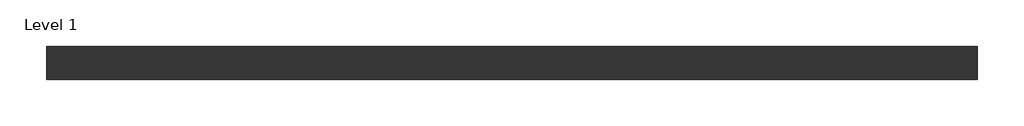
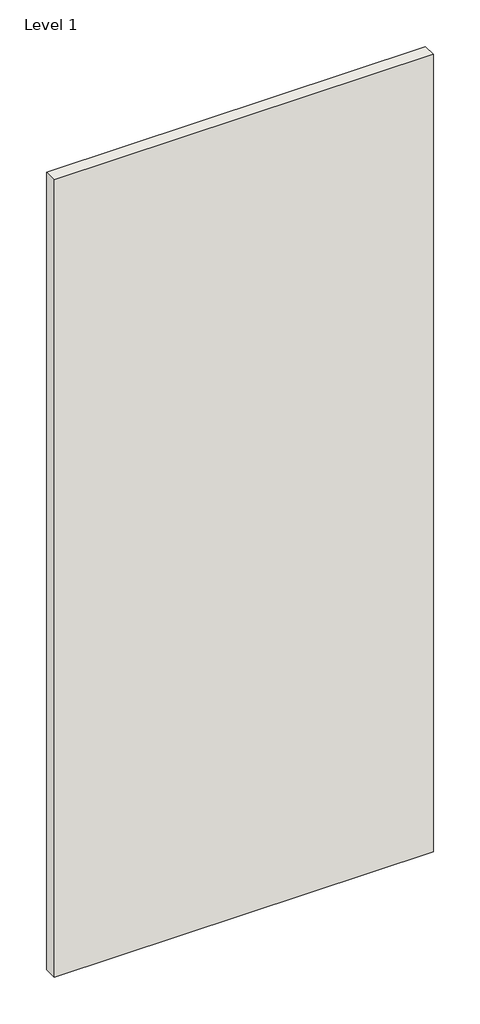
# One storey: 1 wall.
"""IFC4 building model written with IfcOpenShell, lengths in millimetres."""

import ifcopenshell
import ifcopenshell.guid

model = None  # the IFC model being written
_history = None  # IfcOwnerHistory: only IFC2X3 demands one
_inside = {}  # id of a spatial element -> (the spatial element, [elements in it])
_under = {}  # id of a project, library or spatial element -> (it, [spatial elements below it])
_declared = {}  # id of a project -> (the project, [libraries it declares])
_typed = {}  # id of a type object -> (the type object, [elements of that type])
_made_of = {}  # id of a material, layer set ... -> (it, [elements and type objects made of it])


def new_model(schema):
    """Start an empty IFC model of exactly this schema.

    Asked for "IFC4X3", IfcOpenShell would pick the latest addendum, in which some entities
    have other attributes; the version numbers below select the first issue.
    IFC2X3 requires an IfcOwnerHistory on every rooted entity: one is made here for all.
    """
    global model, _history
    if schema == "IFC4X3":
        model = ifcopenshell.file(schema_version=(4, 3, 0, 0))
    else:
        model = ifcopenshell.file(schema=schema)
    _inside.clear()
    _under.clear()
    _declared.clear()
    _typed.clear()
    _made_of.clear()
    _history = None
    if model.schema == "IFC2X3":
        org = make("IfcOrganization", Name="unknown")
        user = make(
            "IfcPersonAndOrganization",
            ThePerson=make("IfcPerson", FamilyName="unknown"),
            TheOrganization=org,
        )
        app = make(
            "IfcApplication",
            ApplicationDeveloper=org,
            Version="unknown",
            ApplicationFullName="unknown",
            ApplicationIdentifier="unknown",
        )
        _history = make(
            "IfcOwnerHistory",
            OwningUser=user,
            OwningApplication=app,
            ChangeAction="ADDED",
            CreationDate=0,
        )
    return model


def make(cls, **values):
    """One entity of the class cls with the attributes given. An attribute that is None is left unset."""
    return model.create_entity(
        cls, **{name: value for name, value in values.items() if value is not None}
    )


def rooted(cls, **values):
    """An entity with a GlobalId (a new one), such as an element, a storey or a relation."""
    return make(cls, GlobalId=ifcopenshell.guid.new(), OwnerHistory=_history, **values)


def si_unit(unit_type, name, prefix=None):
    """IfcSIUnit, for example si_unit("LENGTHUNIT", "METRE", prefix="MILLI")."""
    return make("IfcSIUnit", UnitType=unit_type, Prefix=prefix, Name=name)


def assignment(units):
    """IfcUnitAssignment: the units of a project."""
    return None if units is None else make("IfcUnitAssignment", Units=units)


def point(xyz):
    """IfcCartesianPoint."""
    return None if xyz is None else make("IfcCartesianPoint", Coordinates=xyz)


def direction(xyz):
    """IfcDirection."""
    return None if xyz is None else make("IfcDirection", DirectionRatios=xyz)


def frame(location, z_axis=None, x_axis=None):
    """IfcAxis2Placement3D, a coordinate frame: its origin and axes. An axis left out is left unset."""
    return make(
        "IfcAxis2Placement3D",
        Location=point(location),
        Axis=direction(z_axis),
        RefDirection=direction(x_axis),
    )


def origin():
    """The frame at (0, 0, 0) with its axes left unset."""
    return frame((0.0, 0.0, 0.0))


def origin_with_axes():
    """The frame at (0, 0, 0) with the z axis (0, 0, 1) and the x axis (1, 0, 0) written out."""
    return frame((0.0, 0.0, 0.0), z_axis=(0.0, 0.0, 1.0), x_axis=(1.0, 0.0, 0.0))


def place(relative_to, where):
    """IfcLocalPlacement: puts the frame where relative to a parent placement (None: the world)."""
    return make(
        "IfcLocalPlacement", PlacementRelTo=relative_to, RelativePlacement=where
    )


def context(
    kind, dimensions, precision=None, world=None, true_north=None, identifier=None
):
    """IfcGeometricRepresentationContext, for example the 3D "Model" context."""
    return make(
        "IfcGeometricRepresentationContext",
        ContextIdentifier=identifier,
        ContextType=kind,
        CoordinateSpaceDimension=dimensions,
        Precision=precision,
        WorldCoordinateSystem=world,
        TrueNorth=true_north,
    )


def project(units=None, contexts=None):
    """IfcProject with its units and contexts."""
    return rooted(
        "IfcProject",
        Name="project",
        RepresentationContexts=contexts,
        UnitsInContext=assignment(units),
    )


def spatial(cls, under=None, at=None, **own):
    """A site, building, storey or space (cls), placed at a placement, below another one or the project."""
    s = rooted(cls, ObjectPlacement=at, **own)
    if under is not None:
        _under.setdefault(under.id(), (under, []))[1].append(s)
    return s


def polyline(points):
    """IfcPolyline through the points."""
    return make("IfcPolyline", Points=[point(p) for p in points])


def outline(outer, holes=None, kind="AREA"):
    """IfcArbitraryClosedProfileDef: a profile drawn as a closed curve; with holes, ...WithVoids."""
    if holes is None:
        return make("IfcArbitraryClosedProfileDef", ProfileType=kind, OuterCurve=outer)
    return make(
        "IfcArbitraryProfileDefWithVoids",
        ProfileType=kind,
        OuterCurve=outer,
        InnerCurves=holes,
    )


def extrude(swept, where, along, depth):
    """IfcExtrudedAreaSolid: the profile swept, set in the frame where, extruded along a direction by depth."""
    return make(
        "IfcExtrudedAreaSolid",
        SweptArea=swept,
        Position=where,
        ExtrudedDirection=direction(along),
        Depth=depth,
    )


def shape(context_of_items, identifier, shape_type, items):
    """IfcShapeRepresentation: the items that make up one representation, for example the "Body"."""
    return make(
        "IfcShapeRepresentation",
        ContextOfItems=context_of_items,
        RepresentationIdentifier=identifier,
        RepresentationType=shape_type,
        Items=items,
    )


def made_of(thing, what):
    """Note that an element or type object is made of a material, layer set ...; save() writes the relation."""
    if what is not None:
        _made_of.setdefault(what.id(), (what, []))[1].append(thing)
    return thing


def element(
    cls,
    number,
    at=None,
    inside=None,
    cuts=None,
    type_object=None,
    material=None,
    context=None,
    identifier="Body",
    shape_type=None,
    held_by="IfcProductDefinitionShape",
    body=None,
    shapes=None,
    **own,
):
    """One element of the class cls, such as IfcWall. Its Tag is "e" and its number.

    at: its placement. inside: the storey or other place that contains it. cuts: it is an
    opening in that element (IfcRelVoidsElement). A single representation is given by context,
    identifier, shape_type and body (its items); several are given by shapes. held_by: the class
    of the entity that holds the representations. save() writes the other relations.
    """
    e = rooted(cls, Tag="e%d" % number, ObjectPlacement=at, **own)
    if body is not None:
        shapes = [shape(context, identifier, shape_type, body)]
    if shapes is not None:
        e.Representation = make(held_by, Representations=shapes)
    if inside is not None:
        _inside.setdefault(inside.id(), (inside, []))[1].append(e)
    if cuts is not None:
        rooted(
            "IfcRelVoidsElement", RelatingBuildingElement=cuts, RelatedOpeningElement=e
        )
    if type_object is not None:
        _typed.setdefault(type_object.id(), (type_object, []))[1].append(e)
    return made_of(e, material)


def aggregate(whole, parts):
    """IfcRelAggregates: a whole, such as a stair, and the parts it consists of."""
    return rooted("IfcRelAggregates", RelatingObject=whole, RelatedObjects=parts)


def save(model, path):
    """Write the relations noted so far, then the file.

    IfcRelAggregates (storeys below a building ...), IfcRelContainedInSpatialStructure (elements
    in a storey), IfcRelDefinesByType, IfcRelAssociatesMaterial and IfcRelDeclares: one each for
    every whole, place, type object, material and project.
    """
    for whole, parts in _under.values():
        aggregate(whole, parts)
    for where, things in _inside.values():
        rooted(
            "IfcRelContainedInSpatialStructure",
            RelatedElements=things,
            RelatingStructure=where,
        )
    for kind, things in _typed.values():
        rooted("IfcRelDefinesByType", RelatedObjects=things, RelatingType=kind)
    for what, things in _made_of.values():
        rooted("IfcRelAssociatesMaterial", RelatedObjects=things, RelatingMaterial=what)
    for by, libraries in _declared.values():
        rooted("IfcRelDeclares", RelatingContext=by, RelatedDefinitions=libraries)
    model.write(path)


model = new_model("IFC4")

# Units and contexts
model_context = context("Model", 3, world=origin())
ifc_project = project(units=[si_unit("LENGTHUNIT", "METRE", prefix="MILLI")], contexts=[model_context])

# Site, building, storey
site = spatial("IfcSite", under=ifc_project)
building = spatial("IfcBuilding", under=site)
storey = spatial("IfcBuildingStorey", under=building, Name="Level 1", Elevation=0.0)

# Wall
placement = place(None, origin())
element("IfcWall", 1, ObjectType="Interior-Steel Frame-StrataWall Services-CSR7605-64mm", at=placement, inside=storey, context=model_context, shape_type="SweptSolid", body=[
    extrude(outline(polyline([(-844.3346191, -4331.0723492), (955.6653809, -4331.0723492), (955.6653809, -4395.0723492), (-844.3346191, -4395.0723492), (-844.3346191, -4331.0723492)])), origin_with_axes(), (0.0, 0.0, 1.0), 4000.0),
])

save(model, "model.ifc")
